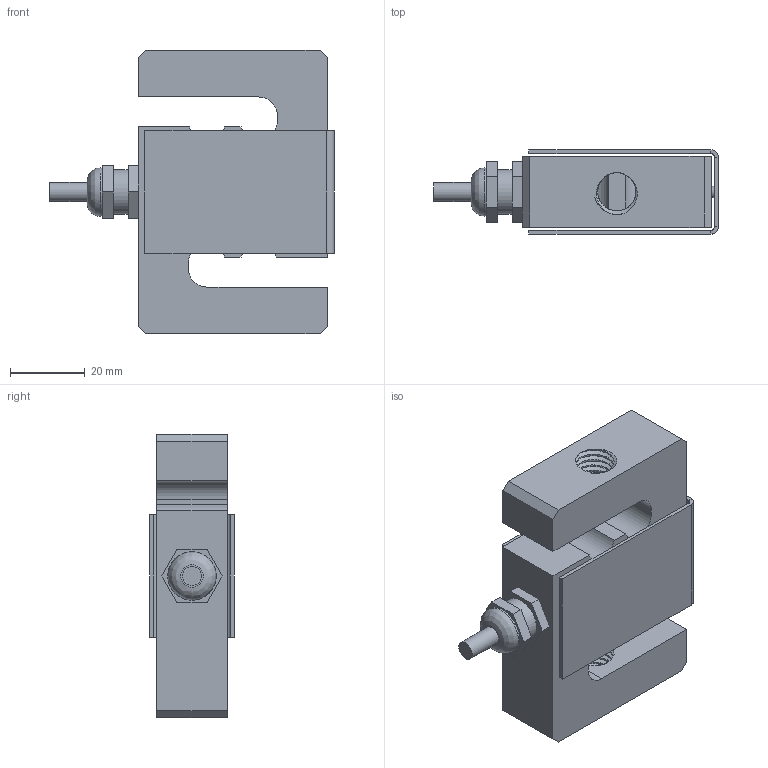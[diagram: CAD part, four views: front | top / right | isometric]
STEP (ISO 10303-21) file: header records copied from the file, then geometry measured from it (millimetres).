
FILE_DESCRIPTION(/* description */ (''),/* implementation_level */ '2;1');
FILE_NAME(/* name */ 'C:/Users/fardi/Dropbox/Anyload/Load Cell Models/3D Drawing/101/101BH-(50-200)kg v6.step',/* time_stamp */ '2020-01-22T15:11:04-08:00',/* author */ (''),/* organization */ (''),/* preprocessor_version */ 'ST-DEVELOPER v18',/* originating_system */ 'Autodesk Translation Framework v8.12.0.6',/* authorisation */ '');
FILE_SCHEMA (('AUTOMOTIVE_DESIGN { 1 0 10303 214 3 1 1 }'));
Length unit declared in the file: millimetre
Products named in the file (2): 101BH-(50-200)kg; Connector v1
Assembly tree (1 placements, depth 2):
  101BH-(50-200)kg
    Connector v1
Bounding box: 76.31 x 22.6 x 76.2 mm (x, y, z)
Volume: 54503.1 mm3; surface area: 28199 mm2
Topology: 2 solids, 4 shells, 128 faces, 308 edges, 195 vertices
Faces by surface type: plane 62, cylinder 61, bspline 5
Full cylindrical faces by diameter (mm): 3 x2, 5.1 x1, 10 x1, 10.274 x14, 12 x1, 12.226 x18, 13 x1, 26.6 x1, 27.8 x2, 29.4 x2
Entity records: 7714 total; most frequent: CARTESIAN_POINT 4787, ORIENTED_EDGE 616, DIRECTION 538, EDGE_CURVE 308, VERTEX_POINT 195, LINE 180, VECTOR 180, AXIS2_PLACEMENT_3D 179
